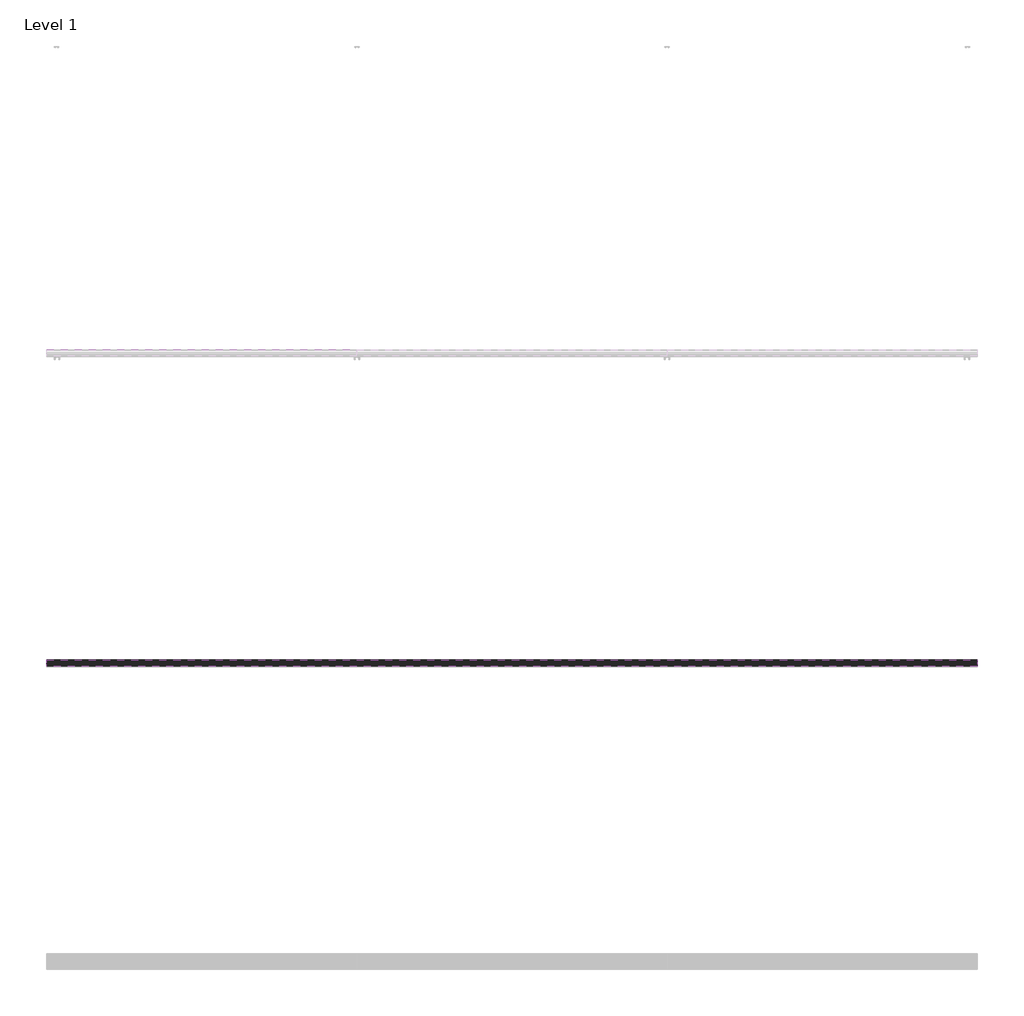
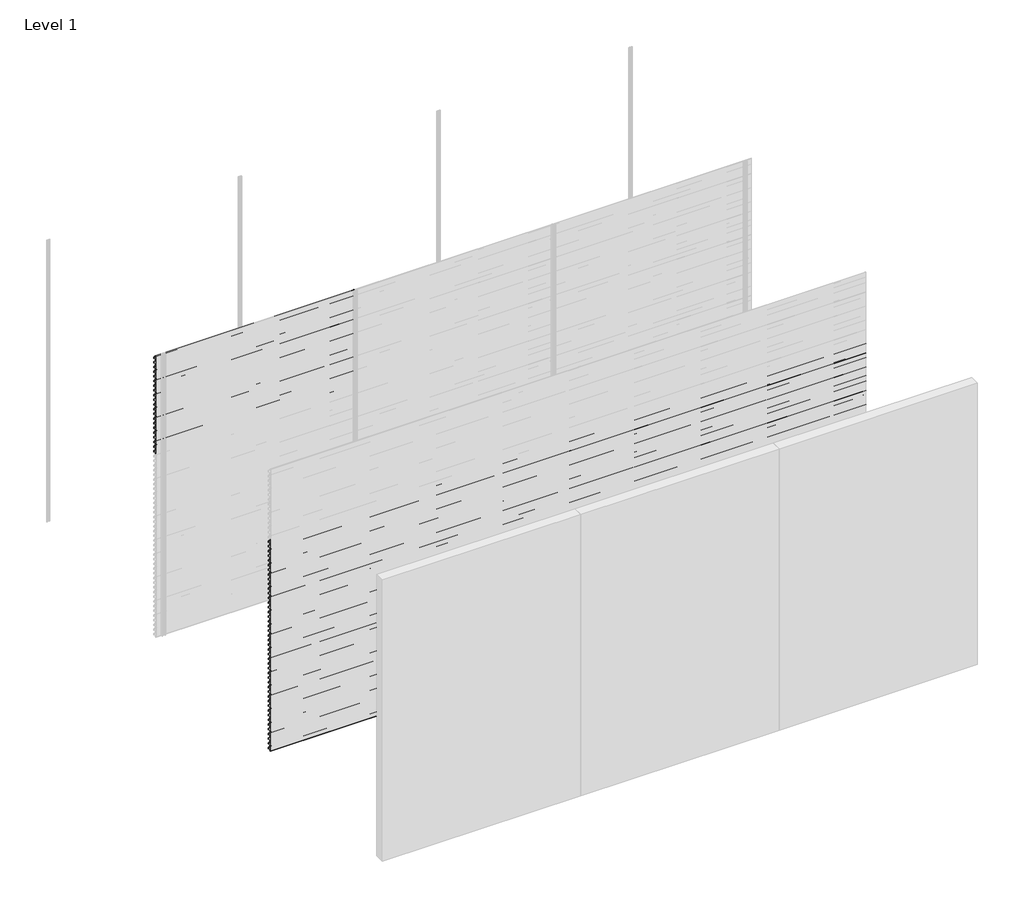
# One storey, part 32 of 38: 66 proxies.
"""IFC4 building model written with IfcOpenShell, lengths in millimetres."""

from ifc_helpers import new_model, si_unit, frame, origin, place, context, project, spatial, polyline, outline, extrude, element, save

model = new_model("IFC4")

# Units and contexts
model_context = context("Model", 3, world=origin())
ifc_project = project(units=[si_unit("LENGTHUNIT", "METRE", prefix="MILLI")], contexts=[model_context])

# Site, building, storey
site = spatial("IfcSite", under=ifc_project)
building = spatial("IfcBuilding", under=site)
storey = spatial("IfcBuildingStorey", under=building, Name="Level 1", Elevation=0.0)

# Proxies
placement = place(None, origin())
element("IfcBuildingElementProxy", 1, Name="Wall Sweeps", at=placement, inside=storey, context=model_context, shape_type="SweptSolid", body=[
    extrude(outline(polyline([(-5996.75, 3000.0), (-5996.75, 2989.19656), (-5974.6057113, 2976.4115489), (-5957.0, 2959.0472005), (-5957.0, 2944.0472005), (-5958.3, 2945.0268207), (-5958.3, 2958.5034593), (-5969.4914725, 2969.541504), (-5994.2797376, 2940.0), (-5995.9767671, 2940.0), (-5970.4200307, 2970.4573323), (-5975.3999793, 2975.3690091), (-5998.0, 2988.4171371), (-5998.0, 3000.0), (-5996.75, 3000.0)])), frame((0.0, 0.0, 0.0), z_axis=(1.0, 0.0, 0.0), x_axis=(0.0, 1.0, 0.0)), (0.0, 0.0, 1.0), 2000.0),
])
element("IfcBuildingElementProxy", 2, Name="Wall Sweeps", at=placement, inside=storey, context=model_context, shape_type="SweptSolid", body=[
    extrude(outline(polyline([(-5996.75, 2950.0), (-5996.75, 2939.19656), (-5974.6057113, 2926.4115489), (-5957.0, 2909.0472005), (-5957.0, 2894.0472005), (-5958.3, 2895.0268207), (-5958.3, 2908.5034593), (-5969.4914725, 2919.541504), (-5994.2797376, 2890.0), (-5995.9767671, 2890.0), (-5970.4200307, 2920.4573323), (-5975.3999793, 2925.3690091), (-5998.0, 2938.4171371), (-5998.0, 2950.0), (-5996.75, 2950.0)])), frame((0.0, 0.0, 0.0), z_axis=(1.0, 0.0, 0.0), x_axis=(0.0, 1.0, 0.0)), (0.0, 0.0, 1.0), 2000.0),
])
element("IfcBuildingElementProxy", 3, Name="Wall Sweeps", at=placement, inside=storey, context=model_context, shape_type="SweptSolid", body=[
    extrude(outline(polyline([(-5996.75, 2900.0), (-5996.75, 2889.19656), (-5974.6057113, 2876.4115489), (-5957.0, 2859.0472005), (-5957.0, 2844.0472005), (-5958.3, 2845.0268207), (-5958.3, 2858.5034593), (-5969.4914725, 2869.541504), (-5994.2797376, 2840.0), (-5995.9767671, 2840.0), (-5970.4200307, 2870.4573323), (-5975.3999793, 2875.3690091), (-5998.0, 2888.4171371), (-5998.0, 2900.0), (-5996.75, 2900.0)])), frame((0.0, 0.0, 0.0), z_axis=(1.0, 0.0, 0.0), x_axis=(0.0, 1.0, 0.0)), (0.0, 0.0, 1.0), 2000.0),
])
element("IfcBuildingElementProxy", 4, Name="Wall Sweeps", at=placement, inside=storey, context=model_context, shape_type="SweptSolid", body=[
    extrude(outline(polyline([(-5996.75, 2850.0), (-5996.75, 2839.19656), (-5974.6057113, 2826.4115489), (-5957.0, 2809.0472005), (-5957.0, 2794.0472005), (-5958.3, 2795.0268207), (-5958.3, 2808.5034593), (-5969.4914725, 2819.541504), (-5994.2797376, 2790.0), (-5995.9767671, 2790.0), (-5970.4200307, 2820.4573323), (-5975.3999793, 2825.3690091), (-5998.0, 2838.4171371), (-5998.0, 2850.0), (-5996.75, 2850.0)])), frame((0.0, 0.0, 0.0), z_axis=(1.0, 0.0, 0.0), x_axis=(0.0, 1.0, 0.0)), (0.0, 0.0, 1.0), 2000.0),
])
element("IfcBuildingElementProxy", 5, Name="Wall Sweeps", at=placement, inside=storey, context=model_context, shape_type="SweptSolid", body=[
    extrude(outline(polyline([(-5996.75, 2800.0), (-5996.75, 2789.19656), (-5974.6057113, 2776.4115489), (-5957.0, 2759.0472005), (-5957.0, 2744.0472005), (-5958.3, 2745.0268207), (-5958.3, 2758.5034593), (-5969.4914725, 2769.541504), (-5994.2797376, 2740.0), (-5995.9767671, 2740.0), (-5970.4200307, 2770.4573323), (-5975.3999793, 2775.3690091), (-5998.0, 2788.4171371), (-5998.0, 2800.0), (-5996.75, 2800.0)])), frame((0.0, 0.0, 0.0), z_axis=(1.0, 0.0, 0.0), x_axis=(0.0, 1.0, 0.0)), (0.0, 0.0, 1.0), 2000.0),
])
element("IfcBuildingElementProxy", 6, Name="Wall Sweeps", at=placement, inside=storey, context=model_context, shape_type="SweptSolid", body=[
    extrude(outline(polyline([(-5996.75, 2750.0), (-5996.75, 2739.19656), (-5974.6057113, 2726.4115489), (-5957.0, 2709.0472005), (-5957.0, 2694.0472005), (-5958.3, 2695.0268207), (-5958.3, 2708.5034593), (-5969.4914725, 2719.541504), (-5994.2797376, 2690.0), (-5995.9767671, 2690.0), (-5970.4200307, 2720.4573323), (-5975.3999793, 2725.3690091), (-5998.0, 2738.4171371), (-5998.0, 2750.0), (-5996.75, 2750.0)])), frame((0.0, 0.0, 0.0), z_axis=(1.0, 0.0, 0.0), x_axis=(0.0, 1.0, 0.0)), (0.0, 0.0, 1.0), 2000.0),
])
element("IfcBuildingElementProxy", 7, Name="Wall Sweeps", at=placement, inside=storey, context=model_context, shape_type="SweptSolid", body=[
    extrude(outline(polyline([(-5996.75, 2700.0), (-5996.75, 2689.19656), (-5974.6057113, 2676.4115489), (-5957.0, 2659.0472005), (-5957.0, 2644.0472005), (-5958.3, 2645.0268207), (-5958.3, 2658.5034593), (-5969.4914725, 2669.541504), (-5994.2797376, 2640.0), (-5995.9767671, 2640.0), (-5970.4200307, 2670.4573323), (-5975.3999793, 2675.3690091), (-5998.0, 2688.4171371), (-5998.0, 2700.0), (-5996.75, 2700.0)])), frame((0.0, 0.0, 0.0), z_axis=(1.0, 0.0, 0.0), x_axis=(0.0, 1.0, 0.0)), (0.0, 0.0, 1.0), 2000.0),
])
element("IfcBuildingElementProxy", 8, Name="Wall Sweeps", at=placement, inside=storey, context=model_context, shape_type="SweptSolid", body=[
    extrude(outline(polyline([(-5996.75, 2650.0), (-5996.75, 2639.19656), (-5974.6057113, 2626.4115489), (-5957.0, 2609.0472005), (-5957.0, 2594.0472005), (-5958.3, 2595.0268207), (-5958.3, 2608.5034593), (-5969.4914725, 2619.541504), (-5994.2797376, 2590.0), (-5995.9767671, 2590.0), (-5970.4200307, 2620.4573323), (-5975.3999793, 2625.3690091), (-5998.0, 2638.4171371), (-5998.0, 2650.0), (-5996.75, 2650.0)])), frame((0.0, 0.0, 0.0), z_axis=(1.0, 0.0, 0.0), x_axis=(0.0, 1.0, 0.0)), (0.0, 0.0, 1.0), 2000.0),
])
element("IfcBuildingElementProxy", 9, Name="Wall Sweeps", at=placement, inside=storey, context=model_context, shape_type="SweptSolid", body=[
    extrude(outline(polyline([(-5996.75, 2600.0), (-5996.75, 2589.19656), (-5974.6057113, 2576.4115489), (-5957.0, 2559.0472005), (-5957.0, 2544.0472005), (-5958.3, 2545.0268207), (-5958.3, 2558.5034593), (-5969.4914725, 2569.541504), (-5994.2797376, 2540.0), (-5995.9767671, 2540.0), (-5970.4200307, 2570.4573323), (-5975.3999793, 2575.3690091), (-5998.0, 2588.4171371), (-5998.0, 2600.0), (-5996.75, 2600.0)])), frame((0.0, 0.0, 0.0), z_axis=(1.0, 0.0, 0.0), x_axis=(0.0, 1.0, 0.0)), (0.0, 0.0, 1.0), 2000.0),
])
element("IfcBuildingElementProxy", 10, Name="Wall Sweeps", at=placement, inside=storey, context=model_context, shape_type="SweptSolid", body=[
    extrude(outline(polyline([(-5996.75, 2550.0), (-5996.75, 2539.19656), (-5974.6057113, 2526.4115489), (-5957.0, 2509.0472005), (-5957.0, 2494.0472005), (-5958.3, 2495.0268207), (-5958.3, 2508.5034593), (-5969.4914725, 2519.541504), (-5994.2797376, 2490.0), (-5995.9767671, 2490.0), (-5970.4200307, 2520.4573323), (-5975.3999793, 2525.3690091), (-5998.0, 2538.4171371), (-5998.0, 2550.0), (-5996.75, 2550.0)])), frame((0.0, 0.0, 0.0), z_axis=(1.0, 0.0, 0.0), x_axis=(0.0, 1.0, 0.0)), (0.0, 0.0, 1.0), 2000.0),
])
element("IfcBuildingElementProxy", 11, Name="Wall Sweeps", at=placement, inside=storey, context=model_context, shape_type="SweptSolid", body=[
    extrude(outline(polyline([(-5996.75, 2500.0), (-5996.75, 2489.19656), (-5974.6057113, 2476.4115489), (-5957.0, 2459.0472005), (-5957.0, 2444.0472005), (-5958.3, 2445.0268207), (-5958.3, 2458.5034593), (-5969.4914725, 2469.541504), (-5994.2797376, 2440.0), (-5995.9767671, 2440.0), (-5970.4200307, 2470.4573323), (-5975.3999793, 2475.3690091), (-5998.0, 2488.4171371), (-5998.0, 2500.0), (-5996.75, 2500.0)])), frame((0.0, 0.0, 0.0), z_axis=(1.0, 0.0, 0.0), x_axis=(0.0, 1.0, 0.0)), (0.0, 0.0, 1.0), 2000.0),
])
element("IfcBuildingElementProxy", 12, Name="Wall Sweeps", at=placement, inside=storey, context=model_context, shape_type="SweptSolid", body=[
    extrude(outline(polyline([(-5996.75, 2450.0), (-5996.75, 2439.19656), (-5974.6057113, 2426.4115489), (-5957.0, 2409.0472005), (-5957.0, 2394.0472005), (-5958.3, 2395.0268207), (-5958.3, 2408.5034593), (-5969.4914725, 2419.541504), (-5994.2797376, 2390.0), (-5995.9767671, 2390.0), (-5970.4200307, 2420.4573323), (-5975.3999793, 2425.3690091), (-5998.0, 2438.4171371), (-5998.0, 2450.0), (-5996.75, 2450.0)])), frame((0.0, 0.0, 0.0), z_axis=(1.0, 0.0, 0.0), x_axis=(0.0, 1.0, 0.0)), (0.0, 0.0, 1.0), 2000.0),
])
element("IfcBuildingElementProxy", 13, Name="Wall Sweeps", at=placement, inside=storey, context=model_context, shape_type="SweptSolid", body=[
    extrude(outline(polyline([(-5996.75, 2400.0), (-5996.75, 2389.19656), (-5974.6057113, 2376.4115489), (-5957.0, 2359.0472005), (-5957.0, 2344.0472005), (-5958.3, 2345.0268207), (-5958.3, 2358.5034593), (-5969.4914725, 2369.541504), (-5994.2797376, 2340.0), (-5995.9767671, 2340.0), (-5970.4200307, 2370.4573323), (-5975.3999793, 2375.3690091), (-5998.0, 2388.4171371), (-5998.0, 2400.0), (-5996.75, 2400.0)])), frame((0.0, 0.0, 0.0), z_axis=(1.0, 0.0, 0.0), x_axis=(0.0, 1.0, 0.0)), (0.0, 0.0, 1.0), 2000.0),
])
element("IfcBuildingElementProxy", 14, Name="Wall Sweeps", at=placement, inside=storey, context=model_context, shape_type="SweptSolid", body=[
    extrude(outline(polyline([(-5996.75, 2350.0), (-5996.75, 2339.19656), (-5974.6057113, 2326.4115489), (-5957.0, 2309.0472005), (-5957.0, 2294.0472005), (-5958.3, 2295.0268207), (-5958.3, 2308.5034593), (-5969.4914725, 2319.541504), (-5994.2797376, 2290.0), (-5995.9767671, 2290.0), (-5970.4200307, 2320.4573323), (-5975.3999793, 2325.3690091), (-5998.0, 2338.4171371), (-5998.0, 2350.0), (-5996.75, 2350.0)])), frame((0.0, 0.0, 0.0), z_axis=(1.0, 0.0, 0.0), x_axis=(0.0, 1.0, 0.0)), (0.0, 0.0, 1.0), 2000.0),
])
element("IfcBuildingElementProxy", 15, Name="Wall Sweeps", at=placement, inside=storey, context=model_context, shape_type="SweptSolid", body=[
    extrude(outline(polyline([(-5996.75, 2300.0), (-5996.75, 2289.19656), (-5974.6057113, 2276.4115489), (-5957.0, 2259.0472005), (-5957.0, 2244.0472005), (-5958.3, 2245.0268207), (-5958.3, 2258.5034593), (-5969.4914725, 2269.541504), (-5994.2797376, 2240.0), (-5995.9767671, 2240.0), (-5970.4200307, 2270.4573323), (-5975.3999793, 2275.3690091), (-5998.0, 2288.4171371), (-5998.0, 2300.0), (-5996.75, 2300.0)])), frame((0.0, 0.0, 0.0), z_axis=(1.0, 0.0, 0.0), x_axis=(0.0, 1.0, 0.0)), (0.0, 0.0, 1.0), 2000.0),
])
element("IfcBuildingElementProxy", 16, Name="Wall Sweeps", at=placement, inside=storey, context=model_context, shape_type="SweptSolid", body=[
    extrude(outline(polyline([(-5996.75, 2250.0), (-5996.75, 2239.19656), (-5974.6057113, 2226.4115489), (-5957.0, 2209.0472005), (-5957.0, 2194.0472005), (-5958.3, 2195.0268207), (-5958.3, 2208.5034593), (-5969.4914725, 2219.541504), (-5994.2797376, 2190.0), (-5995.9767671, 2190.0), (-5970.4200307, 2220.4573323), (-5975.3999793, 2225.3690091), (-5998.0, 2238.4171371), (-5998.0, 2250.0), (-5996.75, 2250.0)])), frame((0.0, 0.0, 0.0), z_axis=(1.0, 0.0, 0.0), x_axis=(0.0, 1.0, 0.0)), (0.0, 0.0, 1.0), 2000.0),
])
element("IfcBuildingElementProxy", 17, Name="Wall Sweeps", at=placement, inside=storey, context=model_context, shape_type="SweptSolid", body=[
    extrude(outline(polyline([(-5996.75, 2200.0), (-5996.75, 2189.19656), (-5974.6057113, 2176.4115489), (-5957.0, 2159.0472005), (-5957.0, 2144.0472005), (-5958.3, 2145.0268207), (-5958.3, 2158.5034593), (-5969.4914725, 2169.541504), (-5994.2797376, 2140.0), (-5995.9767671, 2140.0), (-5970.4200307, 2170.4573323), (-5975.3999793, 2175.3690091), (-5998.0, 2188.4171371), (-5998.0, 2200.0), (-5996.75, 2200.0)])), frame((0.0, 0.0, 0.0), z_axis=(1.0, 0.0, 0.0), x_axis=(0.0, 1.0, 0.0)), (0.0, 0.0, 1.0), 2000.0),
])
element("IfcBuildingElementProxy", 18, Name="Wall Sweeps", at=placement, inside=storey, context=model_context, shape_type="SweptSolid", body=[
    extrude(outline(polyline([(-5996.75, 2150.0), (-5996.75, 2139.19656), (-5974.6057113, 2126.4115489), (-5957.0, 2109.0472005), (-5957.0, 2094.0472005), (-5958.3, 2095.0268207), (-5958.3, 2108.5034593), (-5969.4914725, 2119.541504), (-5994.2797376, 2090.0), (-5995.9767671, 2090.0), (-5970.4200307, 2120.4573323), (-5975.3999793, 2125.3690091), (-5998.0, 2138.4171371), (-5998.0, 2150.0), (-5996.75, 2150.0)])), frame((0.0, 0.0, 0.0), z_axis=(1.0, 0.0, 0.0), x_axis=(0.0, 1.0, 0.0)), (0.0, 0.0, 1.0), 2000.0),
])
element("IfcBuildingElementProxy", 19, Name="Wall Sweeps", at=placement, inside=storey, context=model_context, shape_type="SweptSolid", body=[
    extrude(outline(polyline([(-5996.75, 2100.0), (-5996.75, 2089.19656), (-5974.6057113, 2076.4115489), (-5957.0, 2059.0472005), (-5957.0, 2044.0472005), (-5958.3, 2045.0268207), (-5958.3, 2058.5034593), (-5969.4914725, 2069.541504), (-5994.2797376, 2040.0), (-5995.9767671, 2040.0), (-5970.4200307, 2070.4573323), (-5975.3999793, 2075.3690091), (-5998.0, 2088.4171371), (-5998.0, 2100.0), (-5996.75, 2100.0)])), frame((0.0, 0.0, 0.0), z_axis=(1.0, 0.0, 0.0), x_axis=(0.0, 1.0, 0.0)), (0.0, 0.0, 1.0), 2000.0),
])
element("IfcBuildingElementProxy", 20, Name="Wall Sweeps", at=placement, inside=storey, context=model_context, shape_type="SweptSolid", body=[
    extrude(outline(polyline([(-5996.75, 2050.0), (-5996.75, 2039.19656), (-5974.6057113, 2026.4115489), (-5957.0, 2009.0472005), (-5957.0, 1994.0472005), (-5958.3, 1995.0268207), (-5958.3, 2008.5034593), (-5969.4914725, 2019.541504), (-5994.2797376, 1990.0), (-5995.9767671, 1990.0), (-5970.4200307, 2020.4573323), (-5975.3999793, 2025.3690091), (-5998.0, 2038.4171371), (-5998.0, 2050.0), (-5996.75, 2050.0)])), frame((0.0, 0.0, 0.0), z_axis=(1.0, 0.0, 0.0), x_axis=(0.0, 1.0, 0.0)), (0.0, 0.0, 1.0), 2000.0),
])
element("IfcBuildingElementProxy", 21, Name="Wall Sweeps", at=placement, inside=storey, context=model_context, shape_type="SweptSolid", body=[
    extrude(outline(polyline([(-5996.75, 2000.0), (-5996.75, 1989.19656), (-5974.6057113, 1976.4115489), (-5957.0, 1959.0472005), (-5957.0, 1944.0472005), (-5958.3, 1945.0268207), (-5958.3, 1958.5034593), (-5969.4914725, 1969.541504), (-5994.2797376, 1940.0), (-5995.9767671, 1940.0), (-5970.4200307, 1970.4573323), (-5975.3999793, 1975.3690091), (-5998.0, 1988.4171371), (-5998.0, 2000.0), (-5996.75, 2000.0)])), frame((0.0, 0.0, 0.0), z_axis=(1.0, 0.0, 0.0), x_axis=(0.0, 1.0, 0.0)), (0.0, 0.0, 1.0), 2000.0),
])
element("IfcBuildingElementProxy", 22, Name="Wall Sweeps", at=placement, inside=storey, context=model_context, shape_type="SweptSolid", body=[
    extrude(outline(polyline([(-7996.75, 2250.0), (-7996.75, 2239.19656), (-7974.6057113, 2226.4115489), (-7957.0, 2209.0472005), (-7957.0, 2194.0472005), (-7958.3, 2195.0268207), (-7958.3, 2208.5034593), (-7969.4914725, 2219.541504), (-7994.2797376, 2190.0), (-7995.9767671, 2190.0), (-7970.4200307, 2220.4573323), (-7975.3999793, 2225.3690091), (-7998.0, 2238.4171371), (-7998.0, 2250.0), (-7996.75, 2250.0)])), frame((0.0, 0.0, 0.0), z_axis=(1.0, 0.0, 0.0), x_axis=(0.0, 1.0, 0.0)), (0.0, 0.0, 1.0), 6000.0),
])
element("IfcBuildingElementProxy", 23, Name="Wall Sweeps", at=placement, inside=storey, context=model_context, shape_type="SweptSolid", body=[
    extrude(outline(polyline([(-7996.75, 2200.0), (-7996.75, 2189.19656), (-7974.6057113, 2176.4115489), (-7957.0, 2159.0472005), (-7957.0, 2144.0472005), (-7958.3, 2145.0268207), (-7958.3, 2158.5034593), (-7969.4914725, 2169.541504), (-7994.2797376, 2140.0), (-7995.9767671, 2140.0), (-7970.4200307, 2170.4573323), (-7975.3999793, 2175.3690091), (-7998.0, 2188.4171371), (-7998.0, 2200.0), (-7996.75, 2200.0)])), frame((0.0, 0.0, 0.0), z_axis=(1.0, 0.0, 0.0), x_axis=(0.0, 1.0, 0.0)), (0.0, 0.0, 1.0), 6000.0),
])
element("IfcBuildingElementProxy", 24, Name="Wall Sweeps", at=placement, inside=storey, context=model_context, shape_type="SweptSolid", body=[
    extrude(outline(polyline([(-7996.75, 2150.0), (-7996.75, 2139.19656), (-7974.6057113, 2126.4115489), (-7957.0, 2109.0472005), (-7957.0, 2094.0472005), (-7958.3, 2095.0268207), (-7958.3, 2108.5034593), (-7969.4914725, 2119.541504), (-7994.2797376, 2090.0), (-7995.9767671, 2090.0), (-7970.4200307, 2120.4573323), (-7975.3999793, 2125.3690091), (-7998.0, 2138.4171371), (-7998.0, 2150.0), (-7996.75, 2150.0)])), frame((0.0, 0.0, 0.0), z_axis=(1.0, 0.0, 0.0), x_axis=(0.0, 1.0, 0.0)), (0.0, 0.0, 1.0), 6000.0),
])
element("IfcBuildingElementProxy", 25, Name="Wall Sweeps", at=placement, inside=storey, context=model_context, shape_type="SweptSolid", body=[
    extrude(outline(polyline([(-7996.75, 2100.0), (-7996.75, 2089.19656), (-7974.6057113, 2076.4115489), (-7957.0, 2059.0472005), (-7957.0, 2044.0472005), (-7958.3, 2045.0268207), (-7958.3, 2058.5034593), (-7969.4914725, 2069.541504), (-7994.2797376, 2040.0), (-7995.9767671, 2040.0), (-7970.4200307, 2070.4573323), (-7975.3999793, 2075.3690091), (-7998.0, 2088.4171371), (-7998.0, 2100.0), (-7996.75, 2100.0)])), frame((0.0, 0.0, 0.0), z_axis=(1.0, 0.0, 0.0), x_axis=(0.0, 1.0, 0.0)), (0.0, 0.0, 1.0), 6000.0),
])
element("IfcBuildingElementProxy", 26, Name="Wall Sweeps", at=placement, inside=storey, context=model_context, shape_type="SweptSolid", body=[
    extrude(outline(polyline([(-7996.75, 2050.0), (-7996.75, 2039.19656), (-7974.6057113, 2026.4115489), (-7957.0, 2009.0472005), (-7957.0, 1994.0472005), (-7958.3, 1995.0268207), (-7958.3, 2008.5034593), (-7969.4914725, 2019.541504), (-7994.2797376, 1990.0), (-7995.9767671, 1990.0), (-7970.4200307, 2020.4573323), (-7975.3999793, 2025.3690091), (-7998.0, 2038.4171371), (-7998.0, 2050.0), (-7996.75, 2050.0)])), frame((0.0, 0.0, 0.0), z_axis=(1.0, 0.0, 0.0), x_axis=(0.0, 1.0, 0.0)), (0.0, 0.0, 1.0), 6000.0),
])
element("IfcBuildingElementProxy", 27, Name="Wall Sweeps", at=placement, inside=storey, context=model_context, shape_type="SweptSolid", body=[
    extrude(outline(polyline([(-7996.75, 2000.0), (-7996.75, 1989.19656), (-7974.6057113, 1976.4115489), (-7957.0, 1959.0472005), (-7957.0, 1944.0472005), (-7958.3, 1945.0268207), (-7958.3, 1958.5034593), (-7969.4914725, 1969.541504), (-7994.2797376, 1940.0), (-7995.9767671, 1940.0), (-7970.4200307, 1970.4573323), (-7975.3999793, 1975.3690091), (-7998.0, 1988.4171371), (-7998.0, 2000.0), (-7996.75, 2000.0)])), frame((0.0, 0.0, 0.0), z_axis=(1.0, 0.0, 0.0), x_axis=(0.0, 1.0, 0.0)), (0.0, 0.0, 1.0), 6000.0),
])
element("IfcBuildingElementProxy", 28, Name="Wall Sweeps", at=placement, inside=storey, context=model_context, shape_type="SweptSolid", body=[
    extrude(outline(polyline([(-7996.75, 1950.0), (-7996.75, 1939.19656), (-7974.6057113, 1926.4115489), (-7957.0, 1909.0472005), (-7957.0, 1894.0472005), (-7958.3, 1895.0268207), (-7958.3, 1908.5034593), (-7969.4914725, 1919.541504), (-7994.2797376, 1890.0), (-7995.9767671, 1890.0), (-7970.4200307, 1920.4573323), (-7975.3999793, 1925.3690091), (-7998.0, 1938.4171371), (-7998.0, 1950.0), (-7996.75, 1950.0)])), frame((0.0, 0.0, 0.0), z_axis=(1.0, 0.0, 0.0), x_axis=(0.0, 1.0, 0.0)), (0.0, 0.0, 1.0), 6000.0),
])
element("IfcBuildingElementProxy", 29, Name="Wall Sweeps", at=placement, inside=storey, context=model_context, shape_type="SweptSolid", body=[
    extrude(outline(polyline([(-7996.75, 1900.0), (-7996.75, 1889.19656), (-7974.6057113, 1876.4115489), (-7957.0, 1859.0472005), (-7957.0, 1844.0472005), (-7958.3, 1845.0268207), (-7958.3, 1858.5034593), (-7969.4914725, 1869.541504), (-7994.2797376, 1840.0), (-7995.9767671, 1840.0), (-7970.4200307, 1870.4573323), (-7975.3999793, 1875.3690091), (-7998.0, 1888.4171371), (-7998.0, 1900.0), (-7996.75, 1900.0)])), frame((0.0, 0.0, 0.0), z_axis=(1.0, 0.0, 0.0), x_axis=(0.0, 1.0, 0.0)), (0.0, 0.0, 1.0), 6000.0),
])
element("IfcBuildingElementProxy", 30, Name="Wall Sweeps", at=placement, inside=storey, context=model_context, shape_type="SweptSolid", body=[
    extrude(outline(polyline([(-7996.75, 1850.0), (-7996.75, 1839.19656), (-7974.6057113, 1826.4115489), (-7957.0, 1809.0472005), (-7957.0, 1794.0472005), (-7958.3, 1795.0268207), (-7958.3, 1808.5034593), (-7969.4914725, 1819.541504), (-7994.2797376, 1790.0), (-7995.9767671, 1790.0), (-7970.4200307, 1820.4573323), (-7975.3999793, 1825.3690091), (-7998.0, 1838.4171371), (-7998.0, 1850.0), (-7996.75, 1850.0)])), frame((0.0, 0.0, 0.0), z_axis=(1.0, 0.0, 0.0), x_axis=(0.0, 1.0, 0.0)), (0.0, 0.0, 1.0), 6000.0),
])
element("IfcBuildingElementProxy", 31, Name="Wall Sweeps", at=placement, inside=storey, context=model_context, shape_type="SweptSolid", body=[
    extrude(outline(polyline([(-7996.75, 1800.0), (-7996.75, 1789.19656), (-7974.6057113, 1776.4115489), (-7957.0, 1759.0472005), (-7957.0, 1744.0472005), (-7958.3, 1745.0268207), (-7958.3, 1758.5034593), (-7969.4914725, 1769.541504), (-7994.2797376, 1740.0), (-7995.9767671, 1740.0), (-7970.4200307, 1770.4573323), (-7975.3999793, 1775.3690091), (-7998.0, 1788.4171371), (-7998.0, 1800.0), (-7996.75, 1800.0)])), frame((0.0, 0.0, 0.0), z_axis=(1.0, 0.0, 0.0), x_axis=(0.0, 1.0, 0.0)), (0.0, 0.0, 1.0), 6000.0),
])
element("IfcBuildingElementProxy", 32, Name="Wall Sweeps", at=placement, inside=storey, context=model_context, shape_type="SweptSolid", body=[
    extrude(outline(polyline([(-7996.75, 1750.0), (-7996.75, 1739.19656), (-7974.6057113, 1726.4115489), (-7957.0, 1709.0472005), (-7957.0, 1694.0472005), (-7958.3, 1695.0268207), (-7958.3, 1708.5034593), (-7969.4914725, 1719.541504), (-7994.2797376, 1690.0), (-7995.9767671, 1690.0), (-7970.4200307, 1720.4573323), (-7975.3999793, 1725.3690091), (-7998.0, 1738.4171371), (-7998.0, 1750.0), (-7996.75, 1750.0)])), frame((0.0, 0.0, 0.0), z_axis=(1.0, 0.0, 0.0), x_axis=(0.0, 1.0, 0.0)), (0.0, 0.0, 1.0), 6000.0),
])
element("IfcBuildingElementProxy", 33, Name="Wall Sweeps", at=placement, inside=storey, context=model_context, shape_type="SweptSolid", body=[
    extrude(outline(polyline([(-7996.75, 1700.0), (-7996.75, 1689.19656), (-7974.6057113, 1676.4115489), (-7957.0, 1659.0472005), (-7957.0, 1644.0472005), (-7958.3, 1645.0268207), (-7958.3, 1658.5034593), (-7969.4914725, 1669.541504), (-7994.2797376, 1640.0), (-7995.9767671, 1640.0), (-7970.4200307, 1670.4573323), (-7975.3999793, 1675.3690091), (-7998.0, 1688.4171371), (-7998.0, 1700.0), (-7996.75, 1700.0)])), frame((0.0, 0.0, 0.0), z_axis=(1.0, 0.0, 0.0), x_axis=(0.0, 1.0, 0.0)), (0.0, 0.0, 1.0), 6000.0),
])
element("IfcBuildingElementProxy", 34, Name="Wall Sweeps", at=placement, inside=storey, context=model_context, shape_type="SweptSolid", body=[
    extrude(outline(polyline([(-7996.75, 1650.0), (-7996.75, 1639.19656), (-7974.6057113, 1626.4115489), (-7957.0, 1609.0472005), (-7957.0, 1594.0472005), (-7958.3, 1595.0268207), (-7958.3, 1608.5034593), (-7969.4914725, 1619.541504), (-7994.2797376, 1590.0), (-7995.9767671, 1590.0), (-7970.4200307, 1620.4573323), (-7975.3999793, 1625.3690091), (-7998.0, 1638.4171371), (-7998.0, 1650.0), (-7996.75, 1650.0)])), frame((0.0, 0.0, 0.0), z_axis=(1.0, 0.0, 0.0), x_axis=(0.0, 1.0, 0.0)), (0.0, 0.0, 1.0), 6000.0),
])
element("IfcBuildingElementProxy", 35, Name="Wall Sweeps", at=placement, inside=storey, context=model_context, shape_type="SweptSolid", body=[
    extrude(outline(polyline([(-7996.75, 1600.0), (-7996.75, 1589.19656), (-7974.6057113, 1576.4115489), (-7957.0, 1559.0472005), (-7957.0, 1544.0472005), (-7958.3, 1545.0268207), (-7958.3, 1558.5034593), (-7969.4914725, 1569.541504), (-7994.2797376, 1540.0), (-7995.9767671, 1540.0), (-7970.4200307, 1570.4573323), (-7975.3999793, 1575.3690091), (-7998.0, 1588.4171371), (-7998.0, 1600.0), (-7996.75, 1600.0)])), frame((0.0, 0.0, 0.0), z_axis=(1.0, 0.0, 0.0), x_axis=(0.0, 1.0, 0.0)), (0.0, 0.0, 1.0), 6000.0),
])
element("IfcBuildingElementProxy", 36, Name="Wall Sweeps", at=placement, inside=storey, context=model_context, shape_type="SweptSolid", body=[
    extrude(outline(polyline([(-7996.75, 1550.0), (-7996.75, 1539.19656), (-7974.6057113, 1526.4115489), (-7957.0, 1509.0472005), (-7957.0, 1494.0472005), (-7958.3, 1495.0268207), (-7958.3, 1508.5034593), (-7969.4914725, 1519.541504), (-7994.2797376, 1490.0), (-7995.9767671, 1490.0), (-7970.4200307, 1520.4573323), (-7975.3999793, 1525.3690091), (-7998.0, 1538.4171371), (-7998.0, 1550.0), (-7996.75, 1550.0)])), frame((0.0, 0.0, 0.0), z_axis=(1.0, 0.0, 0.0), x_axis=(0.0, 1.0, 0.0)), (0.0, 0.0, 1.0), 6000.0),
])
element("IfcBuildingElementProxy", 37, Name="Wall Sweeps", at=placement, inside=storey, context=model_context, shape_type="SweptSolid", body=[
    extrude(outline(polyline([(-7996.75, 1500.0), (-7996.75, 1489.19656), (-7974.6057113, 1476.4115489), (-7957.0, 1459.0472005), (-7957.0, 1444.0472005), (-7958.3, 1445.0268207), (-7958.3, 1458.5034593), (-7969.4914725, 1469.541504), (-7994.2797376, 1440.0), (-7995.9767671, 1440.0), (-7970.4200307, 1470.4573323), (-7975.3999793, 1475.3690091), (-7998.0, 1488.4171371), (-7998.0, 1500.0), (-7996.75, 1500.0)])), frame((0.0, 0.0, 0.0), z_axis=(1.0, 0.0, 0.0), x_axis=(0.0, 1.0, 0.0)), (0.0, 0.0, 1.0), 6000.0),
])
element("IfcBuildingElementProxy", 38, Name="Wall Sweeps", at=placement, inside=storey, context=model_context, shape_type="SweptSolid", body=[
    extrude(outline(polyline([(-7996.75, 1450.0), (-7996.75, 1439.19656), (-7974.6057113, 1426.4115489), (-7957.0, 1409.0472005), (-7957.0, 1394.0472005), (-7958.3, 1395.0268207), (-7958.3, 1408.5034593), (-7969.4914725, 1419.541504), (-7994.2797376, 1390.0), (-7995.9767671, 1390.0), (-7970.4200307, 1420.4573323), (-7975.3999793, 1425.3690091), (-7998.0, 1438.4171371), (-7998.0, 1450.0), (-7996.75, 1450.0)])), frame((0.0, 0.0, 0.0), z_axis=(1.0, 0.0, 0.0), x_axis=(0.0, 1.0, 0.0)), (0.0, 0.0, 1.0), 6000.0),
])
element("IfcBuildingElementProxy", 39, Name="Wall Sweeps", at=placement, inside=storey, context=model_context, shape_type="SweptSolid", body=[
    extrude(outline(polyline([(-7996.75, 1400.0), (-7996.75, 1389.19656), (-7974.6057113, 1376.4115489), (-7957.0, 1359.0472005), (-7957.0, 1344.0472005), (-7958.3, 1345.0268207), (-7958.3, 1358.5034593), (-7969.4914725, 1369.541504), (-7994.2797376, 1340.0), (-7995.9767671, 1340.0), (-7970.4200307, 1370.4573323), (-7975.3999793, 1375.3690091), (-7998.0, 1388.4171371), (-7998.0, 1400.0), (-7996.75, 1400.0)])), frame((0.0, 0.0, 0.0), z_axis=(1.0, 0.0, 0.0), x_axis=(0.0, 1.0, 0.0)), (0.0, 0.0, 1.0), 6000.0),
])
element("IfcBuildingElementProxy", 40, Name="Wall Sweeps", at=placement, inside=storey, context=model_context, shape_type="SweptSolid", body=[
    extrude(outline(polyline([(-7996.75, 1350.0), (-7996.75, 1339.19656), (-7974.6057113, 1326.4115489), (-7957.0, 1309.0472005), (-7957.0, 1294.0472005), (-7958.3, 1295.0268207), (-7958.3, 1308.5034593), (-7969.4914725, 1319.541504), (-7994.2797376, 1290.0), (-7995.9767671, 1290.0), (-7970.4200307, 1320.4573323), (-7975.3999793, 1325.3690091), (-7998.0, 1338.4171371), (-7998.0, 1350.0), (-7996.75, 1350.0)])), frame((0.0, 0.0, 0.0), z_axis=(1.0, 0.0, 0.0), x_axis=(0.0, 1.0, 0.0)), (0.0, 0.0, 1.0), 6000.0),
])
element("IfcBuildingElementProxy", 41, Name="Wall Sweeps", at=placement, inside=storey, context=model_context, shape_type="SweptSolid", body=[
    extrude(outline(polyline([(-7996.75, 1300.0), (-7996.75, 1289.19656), (-7974.6057113, 1276.4115489), (-7957.0, 1259.0472005), (-7957.0, 1244.0472005), (-7958.3, 1245.0268207), (-7958.3, 1258.5034593), (-7969.4914725, 1269.541504), (-7994.2797376, 1240.0), (-7995.9767671, 1240.0), (-7970.4200307, 1270.4573323), (-7975.3999793, 1275.3690091), (-7998.0, 1288.4171371), (-7998.0, 1300.0), (-7996.75, 1300.0)])), frame((0.0, 0.0, 0.0), z_axis=(1.0, 0.0, 0.0), x_axis=(0.0, 1.0, 0.0)), (0.0, 0.0, 1.0), 6000.0),
])
element("IfcBuildingElementProxy", 42, Name="Wall Sweeps", at=placement, inside=storey, context=model_context, shape_type="SweptSolid", body=[
    extrude(outline(polyline([(-7996.75, 1250.0), (-7996.75, 1239.19656), (-7974.6057113, 1226.4115489), (-7957.0, 1209.0472005), (-7957.0, 1194.0472005), (-7958.3, 1195.0268207), (-7958.3, 1208.5034593), (-7969.4914725, 1219.541504), (-7994.2797376, 1190.0), (-7995.9767671, 1190.0), (-7970.4200307, 1220.4573323), (-7975.3999793, 1225.3690091), (-7998.0, 1238.4171371), (-7998.0, 1250.0), (-7996.75, 1250.0)])), frame((0.0, 0.0, 0.0), z_axis=(1.0, 0.0, 0.0), x_axis=(0.0, 1.0, 0.0)), (0.0, 0.0, 1.0), 6000.0),
])
element("IfcBuildingElementProxy", 43, Name="Wall Sweeps", at=placement, inside=storey, context=model_context, shape_type="SweptSolid", body=[
    extrude(outline(polyline([(-7996.75, 1200.0), (-7996.75, 1189.19656), (-7974.6057113, 1176.4115489), (-7957.0, 1159.0472005), (-7957.0, 1144.0472005), (-7958.3, 1145.0268207), (-7958.3, 1158.5034593), (-7969.4914725, 1169.541504), (-7994.2797376, 1140.0), (-7995.9767671, 1140.0), (-7970.4200307, 1170.4573323), (-7975.3999793, 1175.3690091), (-7998.0, 1188.4171371), (-7998.0, 1200.0), (-7996.75, 1200.0)])), frame((0.0, 0.0, 0.0), z_axis=(1.0, 0.0, 0.0), x_axis=(0.0, 1.0, 0.0)), (0.0, 0.0, 1.0), 6000.0),
])
element("IfcBuildingElementProxy", 44, Name="Wall Sweeps", at=placement, inside=storey, context=model_context, shape_type="SweptSolid", body=[
    extrude(outline(polyline([(-7996.75, 1150.0), (-7996.75, 1139.19656), (-7974.6057113, 1126.4115489), (-7957.0, 1109.0472005), (-7957.0, 1094.0472005), (-7958.3, 1095.0268207), (-7958.3, 1108.5034593), (-7969.4914725, 1119.541504), (-7994.2797376, 1090.0), (-7995.9767671, 1090.0), (-7970.4200307, 1120.4573323), (-7975.3999793, 1125.3690091), (-7998.0, 1138.4171371), (-7998.0, 1150.0), (-7996.75, 1150.0)])), frame((0.0, 0.0, 0.0), z_axis=(1.0, 0.0, 0.0), x_axis=(0.0, 1.0, 0.0)), (0.0, 0.0, 1.0), 6000.0),
])
element("IfcBuildingElementProxy", 45, Name="Wall Sweeps", at=placement, inside=storey, context=model_context, shape_type="SweptSolid", body=[
    extrude(outline(polyline([(-7996.75, 1100.0), (-7996.75, 1089.19656), (-7974.6057113, 1076.4115489), (-7957.0, 1059.0472005), (-7957.0, 1044.0472005), (-7958.3, 1045.0268207), (-7958.3, 1058.5034593), (-7969.4914725, 1069.541504), (-7994.2797376, 1040.0), (-7995.9767671, 1040.0), (-7970.4200307, 1070.4573323), (-7975.3999793, 1075.3690091), (-7998.0, 1088.4171371), (-7998.0, 1100.0), (-7996.75, 1100.0)])), frame((0.0, 0.0, 0.0), z_axis=(1.0, 0.0, 0.0), x_axis=(0.0, 1.0, 0.0)), (0.0, 0.0, 1.0), 6000.0),
])
element("IfcBuildingElementProxy", 46, Name="Wall Sweeps", at=placement, inside=storey, context=model_context, shape_type="SweptSolid", body=[
    extrude(outline(polyline([(-7996.75, 1050.0), (-7996.75, 1039.19656), (-7974.6057113, 1026.4115489), (-7957.0, 1009.0472005), (-7957.0, 994.0472005), (-7958.3, 995.0268207), (-7958.3, 1008.5034593), (-7969.4914725, 1019.541504), (-7994.2797376, 990.0), (-7995.9767671, 990.0), (-7970.4200307, 1020.4573323), (-7975.3999793, 1025.3690091), (-7998.0, 1038.4171371), (-7998.0, 1050.0), (-7996.75, 1050.0)])), frame((0.0, 0.0, 0.0), z_axis=(1.0, 0.0, 0.0), x_axis=(0.0, 1.0, 0.0)), (0.0, 0.0, 1.0), 6000.0),
])
element("IfcBuildingElementProxy", 47, Name="Wall Sweeps", at=placement, inside=storey, context=model_context, shape_type="SweptSolid", body=[
    extrude(outline(polyline([(-7996.75, 1000.0), (-7996.75, 989.19656), (-7974.6057113, 976.4115489), (-7957.0, 959.0472005), (-7957.0, 944.0472005), (-7958.3, 945.0268207), (-7958.3, 958.5034593), (-7969.4914725, 969.541504), (-7994.2797376, 940.0), (-7995.9767671, 940.0), (-7970.4200307, 970.4573323), (-7975.3999793, 975.3690091), (-7998.0, 988.4171371), (-7998.0, 1000.0), (-7996.75, 1000.0)])), frame((0.0, 0.0, 0.0), z_axis=(1.0, 0.0, 0.0), x_axis=(0.0, 1.0, 0.0)), (0.0, 0.0, 1.0), 6000.0),
])
element("IfcBuildingElementProxy", 48, Name="Wall Sweeps", at=placement, inside=storey, context=model_context, shape_type="SweptSolid", body=[
    extrude(outline(polyline([(-7996.75, 950.0), (-7996.75, 939.19656), (-7974.6057113, 926.4115489), (-7957.0, 909.0472005), (-7957.0, 894.0472005), (-7958.3, 895.0268207), (-7958.3, 908.5034593), (-7969.4914725, 919.541504), (-7994.2797376, 890.0), (-7995.9767671, 890.0), (-7970.4200307, 920.4573323), (-7975.3999793, 925.3690091), (-7998.0, 938.4171371), (-7998.0, 950.0), (-7996.75, 950.0)])), frame((0.0, 0.0, 0.0), z_axis=(1.0, 0.0, 0.0), x_axis=(0.0, 1.0, 0.0)), (0.0, 0.0, 1.0), 6000.0),
])
element("IfcBuildingElementProxy", 49, Name="Wall Sweeps", at=placement, inside=storey, context=model_context, shape_type="SweptSolid", body=[
    extrude(outline(polyline([(-7996.75, 900.0), (-7996.75, 889.19656), (-7974.6057113, 876.4115489), (-7957.0, 859.0472005), (-7957.0, 844.0472005), (-7958.3, 845.0268207), (-7958.3, 858.5034593), (-7969.4914725, 869.541504), (-7994.2797376, 840.0), (-7995.9767671, 840.0), (-7970.4200307, 870.4573323), (-7975.3999793, 875.3690091), (-7998.0, 888.4171371), (-7998.0, 900.0), (-7996.75, 900.0)])), frame((0.0, 0.0, 0.0), z_axis=(1.0, 0.0, 0.0), x_axis=(0.0, 1.0, 0.0)), (0.0, 0.0, 1.0), 6000.0),
])
element("IfcBuildingElementProxy", 50, Name="Wall Sweeps", at=placement, inside=storey, context=model_context, shape_type="SweptSolid", body=[
    extrude(outline(polyline([(-7996.75, 850.0), (-7996.75, 839.19656), (-7974.6057113, 826.4115489), (-7957.0, 809.0472005), (-7957.0, 794.0472005), (-7958.3, 795.0268207), (-7958.3, 808.5034593), (-7969.4914725, 819.541504), (-7994.2797376, 790.0), (-7995.9767671, 790.0), (-7970.4200307, 820.4573323), (-7975.3999793, 825.3690091), (-7998.0, 838.4171371), (-7998.0, 850.0), (-7996.75, 850.0)])), frame((0.0, 0.0, 0.0), z_axis=(1.0, 0.0, 0.0), x_axis=(0.0, 1.0, 0.0)), (0.0, 0.0, 1.0), 6000.0),
])
element("IfcBuildingElementProxy", 51, Name="Wall Sweeps", at=placement, inside=storey, context=model_context, shape_type="SweptSolid", body=[
    extrude(outline(polyline([(-7996.75, 800.0), (-7996.75, 789.19656), (-7974.6057113, 776.4115489), (-7957.0, 759.0472005), (-7957.0, 744.0472005), (-7958.3, 745.0268207), (-7958.3, 758.5034593), (-7969.4914725, 769.541504), (-7994.2797376, 740.0), (-7995.9767671, 740.0), (-7970.4200307, 770.4573323), (-7975.3999793, 775.3690091), (-7998.0, 788.4171371), (-7998.0, 800.0), (-7996.75, 800.0)])), frame((0.0, 0.0, 0.0), z_axis=(1.0, 0.0, 0.0), x_axis=(0.0, 1.0, 0.0)), (0.0, 0.0, 1.0), 6000.0),
])
element("IfcBuildingElementProxy", 52, Name="Wall Sweeps", at=placement, inside=storey, context=model_context, shape_type="SweptSolid", body=[
    extrude(outline(polyline([(-7996.75, 750.0), (-7996.75, 739.19656), (-7974.6057113, 726.4115489), (-7957.0, 709.0472005), (-7957.0, 694.0472005), (-7958.3, 695.0268207), (-7958.3, 708.5034593), (-7969.4914725, 719.541504), (-7994.2797376, 690.0), (-7995.9767671, 690.0), (-7970.4200307, 720.4573323), (-7975.3999793, 725.3690091), (-7998.0, 738.4171371), (-7998.0, 750.0), (-7996.75, 750.0)])), frame((0.0, 0.0, 0.0), z_axis=(1.0, 0.0, 0.0), x_axis=(0.0, 1.0, 0.0)), (0.0, 0.0, 1.0), 6000.0),
])
element("IfcBuildingElementProxy", 53, Name="Wall Sweeps", at=placement, inside=storey, context=model_context, shape_type="SweptSolid", body=[
    extrude(outline(polyline([(-7996.75, 700.0), (-7996.75, 689.19656), (-7974.6057113, 676.4115489), (-7957.0, 659.0472005), (-7957.0, 644.0472005), (-7958.3, 645.0268207), (-7958.3, 658.5034593), (-7969.4914725, 669.541504), (-7994.2797376, 640.0), (-7995.9767671, 640.0), (-7970.4200307, 670.4573323), (-7975.3999793, 675.3690091), (-7998.0, 688.4171371), (-7998.0, 700.0), (-7996.75, 700.0)])), frame((0.0, 0.0, 0.0), z_axis=(1.0, 0.0, 0.0), x_axis=(0.0, 1.0, 0.0)), (0.0, 0.0, 1.0), 6000.0),
])
element("IfcBuildingElementProxy", 54, Name="Wall Sweeps", at=placement, inside=storey, context=model_context, shape_type="SweptSolid", body=[
    extrude(outline(polyline([(-7996.75, 650.0), (-7996.75, 639.19656), (-7974.6057113, 626.4115489), (-7957.0, 609.0472005), (-7957.0, 594.0472005), (-7958.3, 595.0268207), (-7958.3, 608.5034593), (-7969.4914725, 619.541504), (-7994.2797376, 590.0), (-7995.9767671, 590.0), (-7970.4200307, 620.4573323), (-7975.3999793, 625.3690091), (-7998.0, 638.4171371), (-7998.0, 650.0), (-7996.75, 650.0)])), frame((0.0, 0.0, 0.0), z_axis=(1.0, 0.0, 0.0), x_axis=(0.0, 1.0, 0.0)), (0.0, 0.0, 1.0), 6000.0),
])
element("IfcBuildingElementProxy", 55, Name="Wall Sweeps", at=placement, inside=storey, context=model_context, shape_type="SweptSolid", body=[
    extrude(outline(polyline([(-7996.75, 600.0), (-7996.75, 589.19656), (-7974.6057113, 576.4115489), (-7957.0, 559.0472005), (-7957.0, 544.0472005), (-7958.3, 545.0268207), (-7958.3, 558.5034593), (-7969.4914725, 569.541504), (-7994.2797376, 540.0), (-7995.9767671, 540.0), (-7970.4200307, 570.4573323), (-7975.3999793, 575.3690091), (-7998.0, 588.4171371), (-7998.0, 600.0), (-7996.75, 600.0)])), frame((0.0, 0.0, 0.0), z_axis=(1.0, 0.0, 0.0), x_axis=(0.0, 1.0, 0.0)), (0.0, 0.0, 1.0), 6000.0),
])
element("IfcBuildingElementProxy", 56, Name="Wall Sweeps", at=placement, inside=storey, context=model_context, shape_type="SweptSolid", body=[
    extrude(outline(polyline([(-7996.75, 550.0), (-7996.75, 539.19656), (-7974.6057113, 526.4115489), (-7957.0, 509.0472005), (-7957.0, 494.0472005), (-7958.3, 495.0268207), (-7958.3, 508.5034593), (-7969.4914725, 519.541504), (-7994.2797376, 490.0), (-7995.9767671, 490.0), (-7970.4200307, 520.4573323), (-7975.3999793, 525.3690091), (-7998.0, 538.4171371), (-7998.0, 550.0), (-7996.75, 550.0)])), frame((0.0, 0.0, 0.0), z_axis=(1.0, 0.0, 0.0), x_axis=(0.0, 1.0, 0.0)), (0.0, 0.0, 1.0), 6000.0),
])
element("IfcBuildingElementProxy", 57, Name="Wall Sweeps", at=placement, inside=storey, context=model_context, shape_type="SweptSolid", body=[
    extrude(outline(polyline([(-7996.75, 500.0), (-7996.75, 489.19656), (-7974.6057113, 476.4115489), (-7957.0, 459.0472005), (-7957.0, 444.0472005), (-7958.3, 445.0268207), (-7958.3, 458.5034593), (-7969.4914725, 469.541504), (-7994.2797376, 440.0), (-7995.9767671, 440.0), (-7970.4200307, 470.4573323), (-7975.3999793, 475.3690091), (-7998.0, 488.4171371), (-7998.0, 500.0), (-7996.75, 500.0)])), frame((0.0, 0.0, 0.0), z_axis=(1.0, 0.0, 0.0), x_axis=(0.0, 1.0, 0.0)), (0.0, 0.0, 1.0), 6000.0),
])
element("IfcBuildingElementProxy", 58, Name="Wall Sweeps", at=placement, inside=storey, context=model_context, shape_type="SweptSolid", body=[
    extrude(outline(polyline([(-7996.75, 450.0), (-7996.75, 439.19656), (-7974.6057113, 426.4115489), (-7957.0, 409.0472005), (-7957.0, 394.0472005), (-7958.3, 395.0268207), (-7958.3, 408.5034593), (-7969.4914725, 419.541504), (-7994.2797376, 390.0), (-7995.9767671, 390.0), (-7970.4200307, 420.4573323), (-7975.3999793, 425.3690091), (-7998.0, 438.4171371), (-7998.0, 450.0), (-7996.75, 450.0)])), frame((0.0, 0.0, 0.0), z_axis=(1.0, 0.0, 0.0), x_axis=(0.0, 1.0, 0.0)), (0.0, 0.0, 1.0), 6000.0),
])
element("IfcBuildingElementProxy", 59, Name="Wall Sweeps", at=placement, inside=storey, context=model_context, shape_type="SweptSolid", body=[
    extrude(outline(polyline([(-7996.75, 400.0), (-7996.75, 389.19656), (-7974.6057113, 376.4115489), (-7957.0, 359.0472005), (-7957.0, 344.0472005), (-7958.3, 345.0268207), (-7958.3, 358.5034593), (-7969.4914725, 369.541504), (-7994.2797376, 340.0), (-7995.9767671, 340.0), (-7970.4200307, 370.4573323), (-7975.3999793, 375.3690091), (-7998.0, 388.4171371), (-7998.0, 400.0), (-7996.75, 400.0)])), frame((0.0, 0.0, 0.0), z_axis=(1.0, 0.0, 0.0), x_axis=(0.0, 1.0, 0.0)), (0.0, 0.0, 1.0), 6000.0),
])
element("IfcBuildingElementProxy", 60, Name="Wall Sweeps", at=placement, inside=storey, context=model_context, shape_type="SweptSolid", body=[
    extrude(outline(polyline([(-7996.75, 350.0), (-7996.75, 339.19656), (-7974.6057113, 326.4115489), (-7957.0, 309.0472005), (-7957.0, 294.0472005), (-7958.3, 295.0268207), (-7958.3, 308.5034593), (-7969.4914725, 319.541504), (-7994.2797376, 290.0), (-7995.9767671, 290.0), (-7970.4200307, 320.4573323), (-7975.3999793, 325.3690091), (-7998.0, 338.4171371), (-7998.0, 350.0), (-7996.75, 350.0)])), frame((0.0, 0.0, 0.0), z_axis=(1.0, 0.0, 0.0), x_axis=(0.0, 1.0, 0.0)), (0.0, 0.0, 1.0), 6000.0),
])
element("IfcBuildingElementProxy", 61, Name="Wall Sweeps", at=placement, inside=storey, context=model_context, shape_type="SweptSolid", body=[
    extrude(outline(polyline([(-7996.75, 300.0), (-7996.75, 289.19656), (-7974.6057113, 276.4115489), (-7957.0, 259.0472005), (-7957.0, 244.0472005), (-7958.3, 245.0268207), (-7958.3, 258.5034593), (-7969.4914725, 269.541504), (-7994.2797376, 240.0), (-7995.9767671, 240.0), (-7970.4200307, 270.4573323), (-7975.3999793, 275.3690091), (-7998.0, 288.4171371), (-7998.0, 300.0), (-7996.75, 300.0)])), frame((0.0, 0.0, 0.0), z_axis=(1.0, 0.0, 0.0), x_axis=(0.0, 1.0, 0.0)), (0.0, 0.0, 1.0), 6000.0),
])
element("IfcBuildingElementProxy", 62, Name="Wall Sweeps", at=placement, inside=storey, context=model_context, shape_type="SweptSolid", body=[
    extrude(outline(polyline([(-7996.75, 250.0), (-7996.75, 239.19656), (-7974.6057113, 226.4115489), (-7957.0, 209.0472005), (-7957.0, 194.0472005), (-7958.3, 195.0268207), (-7958.3, 208.5034593), (-7969.4914725, 219.541504), (-7994.2797376, 190.0), (-7995.9767671, 190.0), (-7970.4200307, 220.4573323), (-7975.3999793, 225.3690091), (-7998.0, 238.4171371), (-7998.0, 250.0), (-7996.75, 250.0)])), frame((0.0, 0.0, 0.0), z_axis=(1.0, 0.0, 0.0), x_axis=(0.0, 1.0, 0.0)), (0.0, 0.0, 1.0), 6000.0),
])
element("IfcBuildingElementProxy", 63, Name="Wall Sweeps", at=placement, inside=storey, context=model_context, shape_type="SweptSolid", body=[
    extrude(outline(polyline([(-7996.75, 200.0), (-7996.75, 189.19656), (-7974.6057113, 176.4115489), (-7957.0, 159.0472005), (-7957.0, 144.0472005), (-7958.3, 145.0268207), (-7958.3, 158.5034593), (-7969.4914725, 169.541504), (-7994.2797376, 140.0), (-7995.9767671, 140.0), (-7970.4200307, 170.4573323), (-7975.3999793, 175.3690091), (-7998.0, 188.4171371), (-7998.0, 200.0), (-7996.75, 200.0)])), frame((0.0, 0.0, 0.0), z_axis=(1.0, 0.0, 0.0), x_axis=(0.0, 1.0, 0.0)), (0.0, 0.0, 1.0), 6000.0),
])
element("IfcBuildingElementProxy", 64, Name="Wall Sweeps", at=placement, inside=storey, context=model_context, shape_type="SweptSolid", body=[
    extrude(outline(polyline([(-7996.75, 150.0), (-7996.75, 139.19656), (-7974.6057113, 126.4115489), (-7957.0, 109.0472005), (-7957.0, 94.0472005), (-7958.3, 95.0268207), (-7958.3, 108.5034593), (-7969.4914725, 119.541504), (-7994.2797376, 90.0), (-7995.9767671, 90.0), (-7970.4200307, 120.4573323), (-7975.3999793, 125.3690091), (-7998.0, 138.4171371), (-7998.0, 150.0), (-7996.75, 150.0)])), frame((0.0, 0.0, 0.0), z_axis=(1.0, 0.0, 0.0), x_axis=(0.0, 1.0, 0.0)), (0.0, 0.0, 1.0), 6000.0),
])
element("IfcBuildingElementProxy", 65, Name="Wall Sweeps", at=placement, inside=storey, context=model_context, shape_type="SweptSolid", body=[
    extrude(outline(polyline([(-7996.75, 100.0), (-7996.75, 89.19656), (-7974.6057113, 76.4115489), (-7957.0, 59.0472005), (-7957.0, 44.0472005), (-7958.3, 45.0268207), (-7958.3, 58.5034593), (-7969.4914725, 69.541504), (-7994.2797376, 40.0), (-7995.9767671, 40.0), (-7970.4200307, 70.4573323), (-7975.3999793, 75.3690091), (-7998.0, 88.4171371), (-7998.0, 100.0), (-7996.75, 100.0)])), frame((0.0, 0.0, 0.0), z_axis=(1.0, 0.0, 0.0), x_axis=(0.0, 1.0, 0.0)), (0.0, 0.0, 1.0), 6000.0),
])
element("IfcBuildingElementProxy", 66, Name="Wall Sweeps", at=placement, inside=storey, context=model_context, shape_type="SweptSolid", body=[
    extrude(outline(polyline([(-7996.75, 50.0), (-7996.75, 39.19656), (-7974.6057113, 26.4115489), (-7957.0, 9.0472005), (-7957.0, -5.9527995), (-7958.3, -4.9731793), (-7958.3, 8.5034593), (-7969.4914725, 19.541504), (-7994.2797376, -10.0), (-7995.9767671, -10.0), (-7970.4200307, 20.4573323), (-7975.3999793, 25.3690091), (-7998.0, 38.4171371), (-7998.0, 50.0), (-7996.75, 50.0)])), frame((0.0, 0.0, 0.0), z_axis=(1.0, 0.0, 0.0), x_axis=(0.0, 1.0, 0.0)), (0.0, 0.0, 1.0), 6000.0),
])

save(model, "model.ifc")
